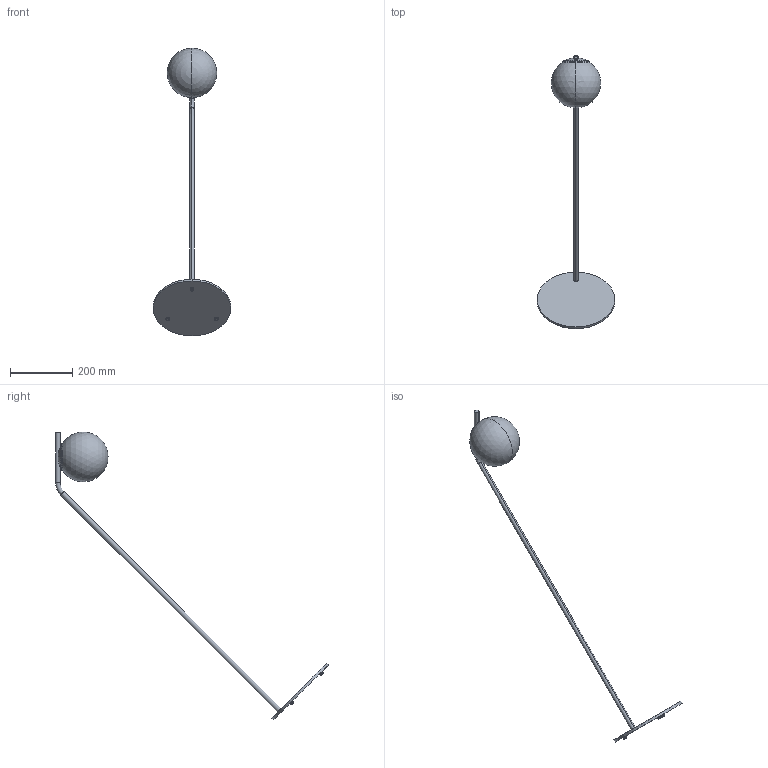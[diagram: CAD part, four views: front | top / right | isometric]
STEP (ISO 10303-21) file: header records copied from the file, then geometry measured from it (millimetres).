
FILE_DESCRIPTION((''),'2;1');
FILE_NAME('PIANTANA_MOBILE_1200_SW0001','2026-02-03T16:36:09',('Piccioli'),(''),'CREO PARAMETRIC BY PTC INC, 2025010','CREO PARAMETRIC BY PTC INC, 2025010','');
FILE_SCHEMA(('CONFIG_CONTROL_DESIGN'));
Length unit declared in the file: millimetre
Products named in the file (1): PIANTANA_MOBILE_1200_SW0001
Bounding box: 250 x 878.59 x 926.5 mm (x, y, z)
Surface area: 277931.9 mm2 (no closed solid volume)
Topology: 0 solids, 12 shells, 63 faces, 180 edges, 119 vertices
Faces by surface type: cylinder 17, torus 16, plane 14, cone 10, sphere 6
Entity records: 3590 total; most frequent: CARTESIAN_POINT 1946, DIRECTION 356, ORIENTED_EDGE 304, EDGE_CURVE 178, AXIS2_PLACEMENT_3D 155, VERTEX_POINT 119, CIRCLE 92, EDGE_LOOP 63
